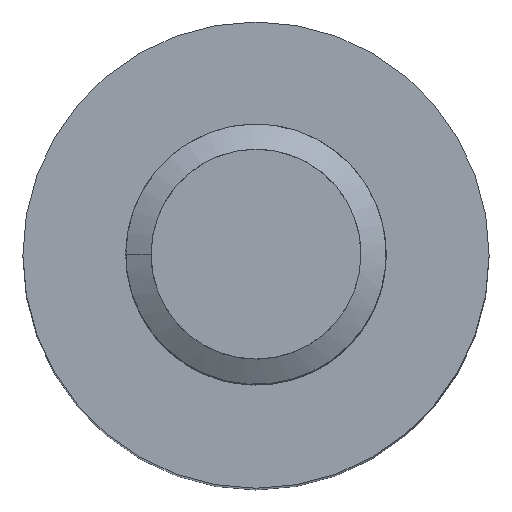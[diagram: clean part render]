
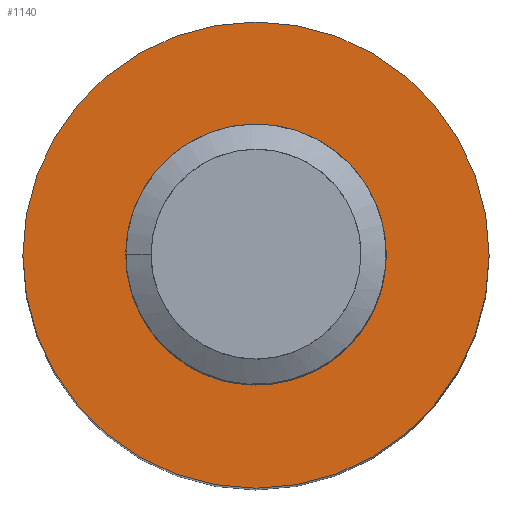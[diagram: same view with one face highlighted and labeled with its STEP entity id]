
A CAD part, top view. The second image highlights one B-rep face of the part: STEP entity #1140.
In plain terms, the highlighted planar face has unit normal (0, 0, 1).
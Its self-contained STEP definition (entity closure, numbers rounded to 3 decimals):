
#31 = AXIS2_PLACEMENT_3D ( 'NONE', #303, #2706, #2251 ) ;
#44 = CIRCLE ( 'NONE', #261, 2.25 ) ;
#66 = CARTESIAN_POINT ( 'NONE',  ( -2.274, -0.208, 21.5 ) ) ;
#78 = B_SPLINE_CURVE_WITH_KNOTS ( 'NONE', 3,
 ( #2215, #549, #1267, #2455, #312, #1981, #2466, #623, #2052, #2284, #2528, #3035, #292, #364, #1749, #850, #66, #2961 ),
 .UNSPECIFIED., .F., .F.,
 ( 4, 2, 2, 2, 2, 2, 2, 2, 4 ),
 ( 0., 0.001, 0.001, 0.002, 0.002, 0.003, 0.004, 0.004, 0.005 ),
 .UNSPECIFIED. ) ;
#146 = CARTESIAN_POINT ( 'NONE',  ( 2.579, -1.068, 21.5 ) ) ;
#261 = AXIS2_PLACEMENT_3D ( 'NONE', #1181, #3114, #958 ) ;
#292 = CARTESIAN_POINT ( 'NONE',  ( -1.981, -1.409, 21.5 ) ) ;
#303 = CARTESIAN_POINT ( 'NONE',  ( 0., 0., 21.5 ) ) ;
#312 = CARTESIAN_POINT ( 'NONE',  ( 0.041, -2.695, 21.5 ) ) ;
#337 = CARTESIAN_POINT ( 'NONE',  ( 1.407, -2.439, 21.5 ) ) ;
#362 = VERTEX_POINT ( 'NONE', #1786 ) ;
#364 = CARTESIAN_POINT ( 'NONE',  ( -2.149, -1.029, 21.5 ) ) ;
#467 = CARTESIAN_POINT ( 'NONE',  ( 0., 0., 21.5 ) ) ;
#486 = DIRECTION ( 'NONE',  ( 0., 0., 1. ) ) ;
#537 = CARTESIAN_POINT ( 'NONE',  ( 1.068, -2.579, 21.5 ) ) ;
#549 = CARTESIAN_POINT ( 'NONE',  ( 0.868, -2.639, 21.5 ) ) ;
#582 = AXIS2_PLACEMENT_3D ( 'NONE', #2870, #1425, #1885 ) ;
#623 = CARTESIAN_POINT ( 'NONE',  ( -0.949, -2.408, 21.5 ) ) ;
#691 = CARTESIAN_POINT ( 'NONE',  ( 2.407, 0.951, 21.5 ) ) ;
#701 = CARTESIAN_POINT ( 'NONE',  ( 1.027, 2.15, 21.5 ) ) ;
#850 = CARTESIAN_POINT ( 'NONE',  ( -2.27, -0.418, 21.5 ) ) ;
#925 = CARTESIAN_POINT ( 'NONE',  ( 1.907, 1.612, 21.5 ) ) ;
#936 = CARTESIAN_POINT ( 'NONE',  ( 0.208, 2.274, 21.5 ) ) ;
#945 = CARTESIAN_POINT ( 'NONE',  ( 2.628, 0.369, 21.5 ) ) ;
#958 = DIRECTION ( 'NONE',  ( 1., 0., 0. ) ) ;
#1055 = CARTESIAN_POINT ( 'NONE',  ( 2.579, -1.068, 21.5 ) ) ;
#1062 = EDGE_CURVE ( 'NONE', #362, #2623, #44, .T. ) ;
#1140 = ADVANCED_FACE ( 'NONE', ( #2681, #2306 ), #2862, .T. ) ;
#1167 = CARTESIAN_POINT ( 'NONE',  ( 2.303, 1.13, 21.5 ) ) ;
#1177 = CARTESIAN_POINT ( 'NONE',  ( 2.579, -1.068, 21.5 ) ) ;
#1181 = CARTESIAN_POINT ( 'NONE',  ( 0., 0., 21.5 ) ) ;
#1187 = EDGE_LOOP ( 'NONE', ( #2924, #1789, #2539, #2619 ) ) ;
#1195 = CARTESIAN_POINT ( 'NONE',  ( 1.406, 1.982, 21.5 ) ) ;
#1267 = CARTESIAN_POINT ( 'NONE',  ( 0.664, -2.676, 21.5 ) ) ;
#1395 = CIRCLE ( 'NONE', #2336, 5. ) ;
#1407 = VERTEX_POINT ( 'NONE', #146 ) ;
#1425 = DIRECTION ( 'NONE',  ( 0., 0., 1. ) ) ;
#1527 = VERTEX_POINT ( 'NONE', #3057 ) ;
#1659 = CARTESIAN_POINT ( 'NONE',  ( 2.571, 0.567, 21.5 ) ) ;
#1749 = CARTESIAN_POINT ( 'NONE',  ( -2.207, -0.83, 21.5 ) ) ;
#1775 = CARTESIAN_POINT ( 'NONE',  ( 1.715, -2.232, 21.5 ) ) ;
#1786 = CARTESIAN_POINT ( 'NONE',  ( 0., 2.25, 21.5 ) ) ;
#1789 = ORIENTED_EDGE ( 'NONE', *, *, #2611, .T. ) ;
#1885 = DIRECTION ( 'NONE',  ( 1., 0., 0. ) ) ;
#1890 = CARTESIAN_POINT ( 'NONE',  ( 2.054, 1.46, 21.5 ) ) ;
#1954 = VERTEX_POINT ( 'NONE', #2935 ) ;
#1981 = CARTESIAN_POINT ( 'NONE',  ( -0.366, -2.629, 21.5 ) ) ;
#1999 = ORIENTED_EDGE ( 'NONE', *, *, #2988, .T. ) ;
#2052 = CARTESIAN_POINT ( 'NONE',  ( -1.128, -2.304, 21.5 ) ) ;
#2146 = EDGE_CURVE ( 'NONE', #1954, #2247, #2191, .T. ) ;
#2149 = CARTESIAN_POINT ( 'NONE',  ( 0.828, 2.208, 21.5 ) ) ;
#2187 = EDGE_CURVE ( 'NONE', #1407, #1527, #2722, .T. ) ;
#2191 = CIRCLE ( 'NONE', #31, 5. ) ;
#2213 = CARTESIAN_POINT ( 'NONE',  ( 5., 0., 21.5 ) ) ;
#2215 = CARTESIAN_POINT ( 'NONE',  ( 1.068, -2.579, 21.5 ) ) ;
#2247 = VERTEX_POINT ( 'NONE', #2213 ) ;
#2251 = DIRECTION ( 'NONE',  ( 1., 0., 0. ) ) ;
#2284 = CARTESIAN_POINT ( 'NONE',  ( -1.459, -2.055, 21.5 ) ) ;
#2306 = FACE_BOUND ( 'NONE', #1187, .T. ) ;
#2336 = AXIS2_PLACEMENT_3D ( 'NONE', #467, #486, #3141 ) ;
#2455 = CARTESIAN_POINT ( 'NONE',  ( 0.252, -2.704, 21.5 ) ) ;
#2466 = CARTESIAN_POINT ( 'NONE',  ( -0.564, -2.572, 21.5 ) ) ;
#2470 = ORIENTED_EDGE ( 'NONE', *, *, #2146, .T. ) ;
#2528 = CARTESIAN_POINT ( 'NONE',  ( -1.611, -1.908, 21.5 ) ) ;
#2539 = ORIENTED_EDGE ( 'NONE', *, *, #1062, .F. ) ;
#2586 = EDGE_LOOP ( 'NONE', ( #2470, #1999 ) ) ;
#2599 = CARTESIAN_POINT ( 'NONE',  ( 1.586, 1.872, 21.5 ) ) ;
#2609 = CARTESIAN_POINT ( 'NONE',  ( 2.676, -0.662, 21.5 ) ) ;
#2611 = EDGE_CURVE ( 'NONE', #1527, #2623, #78, .T. ) ;
#2619 = ORIENTED_EDGE ( 'NONE', *, *, #2821, .T. ) ;
#2623 = VERTEX_POINT ( 'NONE', #2696 ) ;
#2642 = CARTESIAN_POINT ( 'NONE',  ( 0., 2.25, 21.5 ) ) ;
#2681 = FACE_OUTER_BOUND ( 'NONE', #2586, .T. ) ;
#2696 = CARTESIAN_POINT ( 'NONE',  ( -2.25, 0., 21.5 ) ) ;
#2706 = DIRECTION ( 'NONE',  ( 0., 0., 1. ) ) ;
#2722 = B_SPLINE_CURVE_WITH_KNOTS ( 'NONE', 3,
 ( #1055, #2735, #2990, #1775, #337, #537 ),
 .UNSPECIFIED., .F., .F.,
 ( 4, 2, 4 ),
 ( 0., 0.001, 0.002 ),
 .UNSPECIFIED. ) ;
#2735 = CARTESIAN_POINT ( 'NONE',  ( 2.439, -1.407, 21.5 ) ) ;
#2821 = EDGE_CURVE ( 'NONE', #362, #1407, #3059, .T. ) ;
#2846 = CARTESIAN_POINT ( 'NONE',  ( 2.704, -0.25, 21.5 ) ) ;
#2862 = PLANE ( 'NONE',  #582 ) ;
#2869 = CARTESIAN_POINT ( 'NONE',  ( 2.695, -0.04, 21.5 ) ) ;
#2870 = CARTESIAN_POINT ( 'NONE',  ( 0., 0., 21.5 ) ) ;
#2924 = ORIENTED_EDGE ( 'NONE', *, *, #2187, .T. ) ;
#2935 = CARTESIAN_POINT ( 'NONE',  ( -5., 0., 21.5 ) ) ;
#2961 = CARTESIAN_POINT ( 'NONE',  ( -2.25, 0., 21.5 ) ) ;
#2988 = EDGE_CURVE ( 'NONE', #2247, #1954, #1395, .T. ) ;
#2990 = CARTESIAN_POINT ( 'NONE',  ( 2.232, -1.716, 21.5 ) ) ;
#3035 = CARTESIAN_POINT ( 'NONE',  ( -1.871, -1.588, 21.5 ) ) ;
#3057 = CARTESIAN_POINT ( 'NONE',  ( 1.068, -2.579, 21.5 ) ) ;
#3059 = B_SPLINE_CURVE_WITH_KNOTS ( 'NONE', 3,
 ( #2642, #936, #3110, #2149, #701, #1195, #2599, #925, #1890, #1167, #691, #1659, #945, #2869, #2846, #2609, #3100, #1177 ),
 .UNSPECIFIED., .F., .F.,
 ( 4, 2, 2, 2, 2, 2, 2, 2, 4 ),
 ( 0., 0.001, 0.001, 0.002, 0.002, 0.003, 0.004, 0.004, 0.005 ),
 .UNSPECIFIED. ) ;
#3100 = CARTESIAN_POINT ( 'NONE',  ( 2.639, -0.868, 21.5 ) ) ;
#3110 = CARTESIAN_POINT ( 'NONE',  ( 0.415, 2.27, 21.5 ) ) ;
#3114 = DIRECTION ( 'NONE',  ( 0., 0., 1. ) ) ;
#3141 = DIRECTION ( 'NONE',  ( 1., 0., 0. ) ) ;
